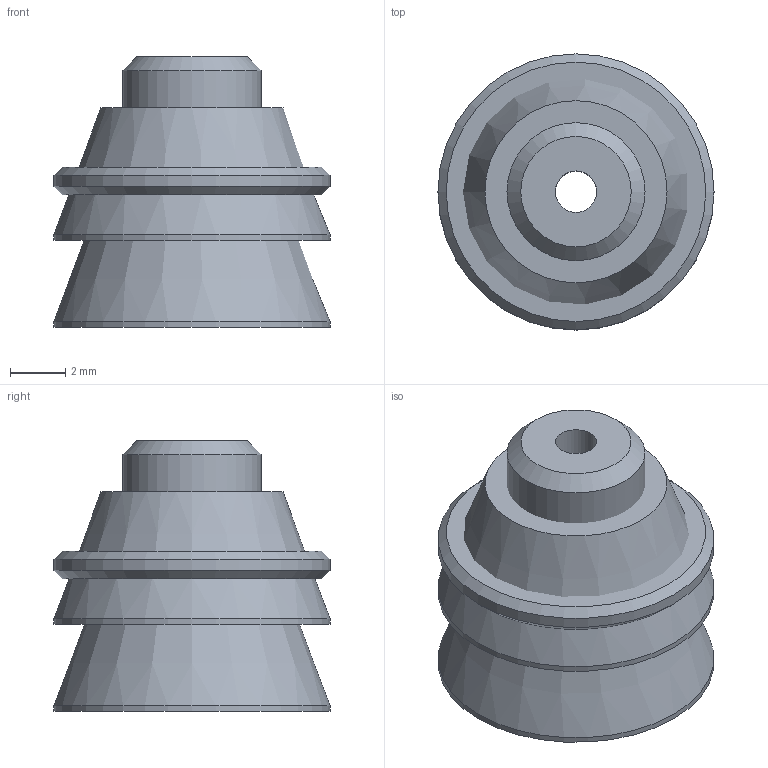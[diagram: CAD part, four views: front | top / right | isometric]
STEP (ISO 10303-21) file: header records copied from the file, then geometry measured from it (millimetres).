
FILE_DESCRIPTION( ( 'Unknown' ), '1' );
FILE_NAME( 'C:/Documents and Settings/Owner/官帕 拳搁/FF10xC69S-M5M.stp', 'Unknown', ( 'Unknown' ), ( 'Unknown' ), 'PSStep 10.0', 'Unknown', ' ' );
FILE_SCHEMA( ( 'AUTOMOTIVE_DESIGN { 1 0 10303 214 1 1 1 1 }' ) );
Length unit declared in the file: millimetre
Products named in the file (3): Assem1; FF15 FITTING; FF10
Bounding box: 10 x 10 x 9.8 mm (x, y, z)
Volume: 717.1 mm3; surface area: 1417.3 mm2
Topology: 4 solids, 4 shells, 146 faces, 336 edges, 218 vertices
Faces by surface type: cylinder 82, plane 48, cone 14, torus 2
Full cylindrical faces by diameter (mm): 1.5 x2, 1.7 x2, 3.5 x4, 4 x2, 5 x2, 5.3 x2, 6 x2, 6.5 x2, 10 x4
Entity records: 2638 total; most frequent: DIRECTION 388, CARTESIAN_POINT 332, ORIENTED_EDGE 296, AXIS2_PLACEMENT_3D 164, EDGE_CURVE 148, VERTEX_POINT 108, EDGE_LOOP 106, CIRCLE 88
